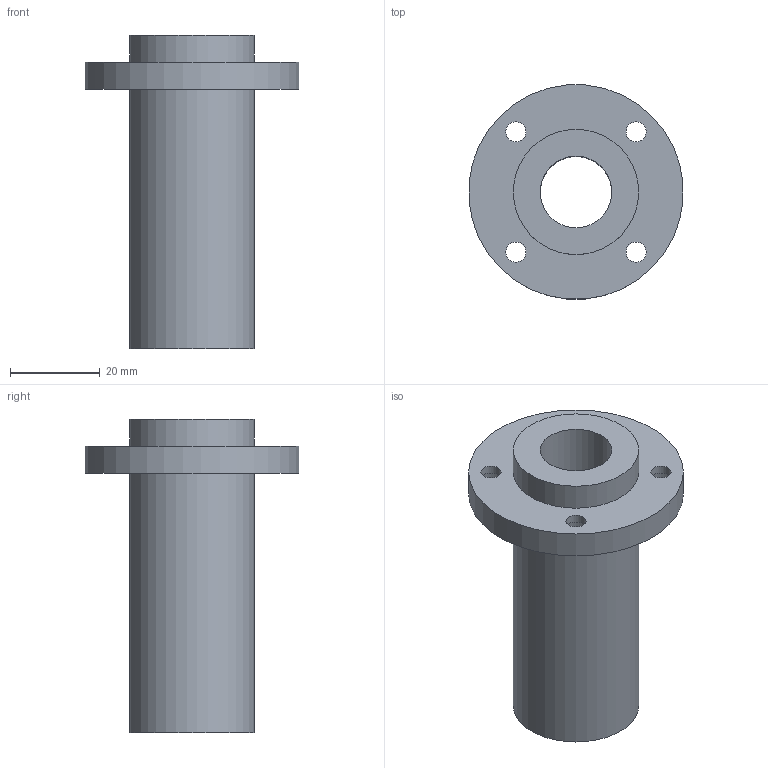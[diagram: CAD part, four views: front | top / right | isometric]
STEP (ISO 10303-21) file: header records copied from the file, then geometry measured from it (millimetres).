
FILE_DESCRIPTION(/* description */ (''),/* implementation_level */ '2;1');
FILE_NAME(/* name */ 'LMFP16LUU',/* time_stamp */ '2019-07-03T13:00:39+02:00',/* author */ ('VĂ©gh MĂˇtĂ©'),/* organization */ ('Bearing Kft'),/* preprocessor_version */ 'ST-DEVELOPER v16.7',/* originating_system */ 'DEX',/* authorisation */ $);
FILE_SCHEMA (('AUTOMOTIVE_DESIGN {1 0 10303 214 3 1 1}'));
Length unit declared in the file: millimetre
Products named in the file (1): LMFP16LUU
Bounding box: 47.82 x 47.82 x 70 mm (x, y, z)
Volume: 35342.9 mm3; surface area: 13657 mm2
Topology: 1 solids, 1 shells, 335 faces, 838 edges, 560 vertices
Faces by surface type: plane 259, bspline 61, cylinder 15
Full cylindrical faces by diameter (mm): 4.5 x4, 7.5 x4, 16 x1, 28 x2, 48 x1
Entity records: 12752 total; most frequent: CARTESIAN_POINT 5133, ORIENTED_EDGE 1640, DIRECTION 1278, EDGE_CURVE 820, LINE 668, VECTOR 668, VERTEX_POINT 556, EDGE_LOOP 414
